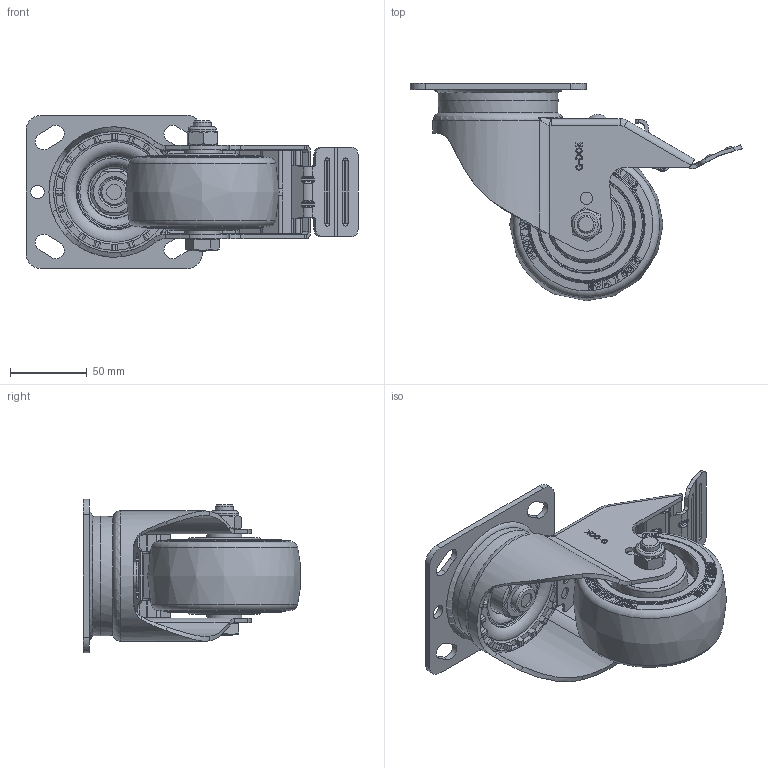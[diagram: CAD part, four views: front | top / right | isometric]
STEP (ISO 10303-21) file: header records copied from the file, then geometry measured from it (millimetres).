
FILE_DESCRIPTION(/* description */ (''),/* implementation_level */ '2;1');
FILE_NAME(/* name */ 'C:\Users\admin\Desktop\업무폴더\일자별 업무\2026\05월\05.15\변환\SPH-100-BSF_TUD&HRD.ipt.stp',/* time_stamp */ '2026-05-15T13:17:03+09:00',/* author */ ('admin'),/* organization */ ('지덕산업'),/* preprocessor_version */ 'ST-DEVELOPER v18.1',/* originating_system */ 'Autodesk Inventor 2021',/* authorisation */ '');
FILE_SCHEMA (('CONFIG_CONTROL_DESIGN'));
Products named in the file (1): SPH-100-BSF_TUD&HRD
Bounding box: 216.54 x 141.75 x 100 mm (x, y, z)
Volume: 558852.7 mm3; surface area: 132791.7 mm2
Topology: 1 solids, 2 shells, 1611 faces, 4357 edges, 2829 vertices
Faces by surface type: plane 732, bspline 467, cylinder 272, cone 91, torus 48, sphere 1
Full cylindrical faces by diameter (mm): 6 x1, 8 x5, 9 x3, 10 x1, 12 x2, 18 x2, 18.5 x1, 31 x1, 31.177 x1, 46.001 x2
Entity records: 57200 total; most frequent: CARTESIAN_POINT 20605, ORIENTED_EDGE 8678, DIRECTION 6006, EDGE_CURVE 4341, VERTEX_POINT 2829, LINE 2138, VECTOR 2138, AXIS2_PLACEMENT_3D 1934
